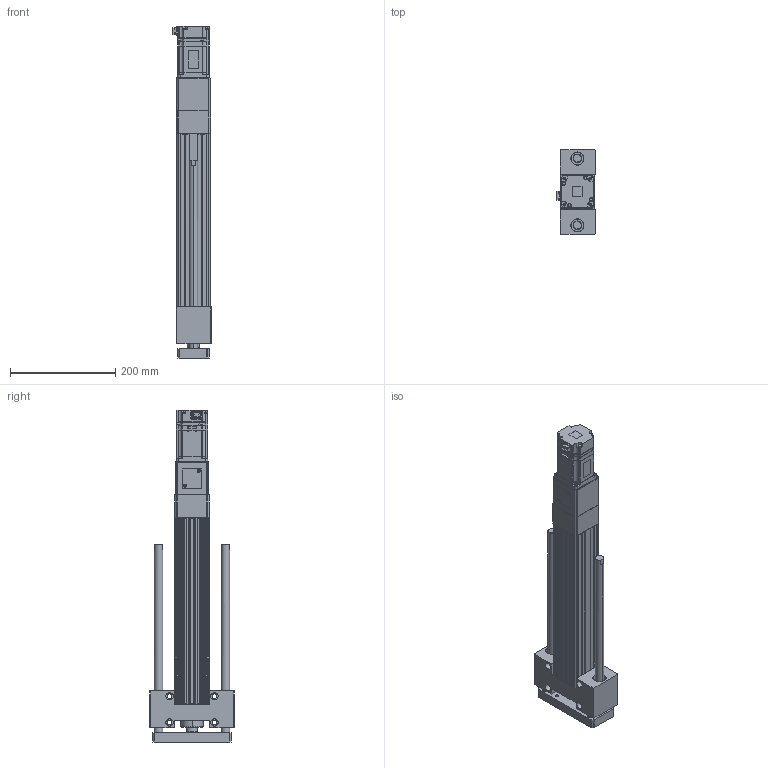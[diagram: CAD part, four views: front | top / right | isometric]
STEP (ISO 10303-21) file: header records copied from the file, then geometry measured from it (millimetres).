
FILE_DESCRIPTION (( 'STEP AP203' ), '1' );
FILE_NAME ('ANS065R-HS250-05(10)(20)-W40.STEP', '2019-03-01T09:14:16', ( 'user' ), ( '' ), 'SwSTEP 2.0', 'SolidWorks 2013', '' );
FILE_SCHEMA (( 'CONFIG_CONTROL_DESIGN' ));
Length unit declared in the file: millimetre
Products named in the file (4): ANS065R HS250 VER2; ANS065 ROD ST250 G; sgmjv_04a_a21; ANS065R-HS250-05(10)(20)-W40
Assembly tree (3 placements, depth 2):
  ANS065R-HS250-05(10)(20)-W40
    ANS065R HS250 VER2
    ANS065 ROD ST250 G
    sgmjv_04a_a21
Bounding box: 72.3 x 160 x 630.6 mm (x, y, z)
Volume: 2227578 mm3; surface area: 467103.3 mm2
Topology: 3 solids, 7 shells, 1236 faces, 3237 edges, 2087 vertices
Faces by surface type: plane 696, cylinder 430, cone 110
Entity records: 38235 total; most frequent: CARTESIAN_POINT 6780, DIRECTION 6559, ORIENTED_EDGE 6418, EDGE_CURVE 3209, LINE 2199, VECTOR 2199, AXIS2_PLACEMENT_3D 2180, VERTEX_POINT 2087
